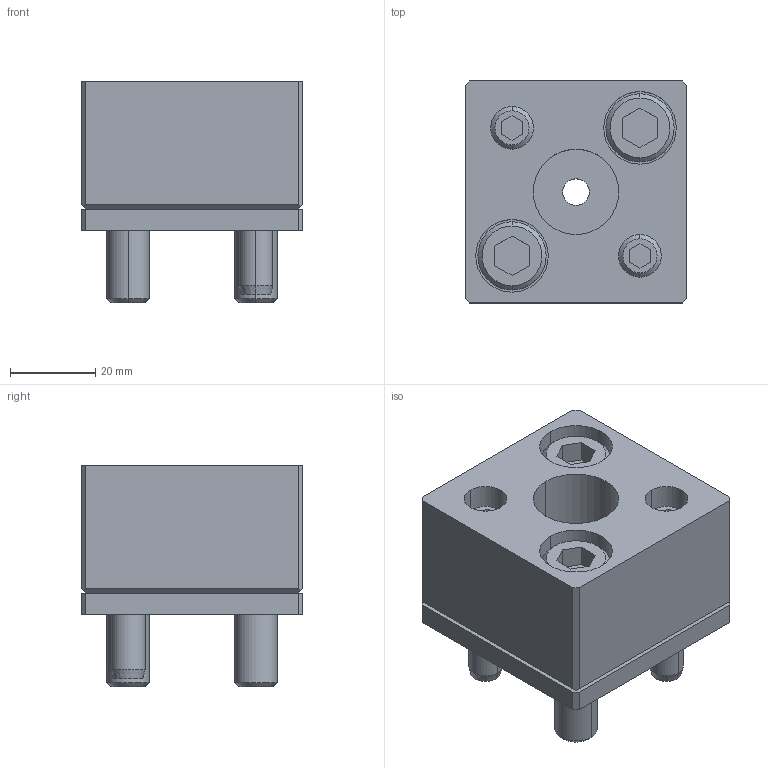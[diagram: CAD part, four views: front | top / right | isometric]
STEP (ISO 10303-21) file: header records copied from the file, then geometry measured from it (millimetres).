
FILE_DESCRIPTION(/* description */ (''),/* implementation_level */ '2;1');
FILE_NAME(/* name */ '3d_sa-ap20_02901_r00.stp',/* time_stamp */ '2011-01-10T14:11:29+09:00',/* author */ ('MISUMI'),/* organization */ (''),/* preprocessor_version */ 'ST-DEVELOPER v11',/* originating_system */ 'UGS - NX 5.0',/* authorisation */ '');
FILE_SCHEMA (('CONFIG_CONTROL_DESIGN'));
Length unit declared in the file: millimetre
Products named in the file (1): 3d_sa-ap20_02901_r00
Bounding box: 52 x 52 x 52 mm (x, y, z)
Volume: 82183.9 mm3; surface area: 30369 mm2
Topology: 8 solids, 8 shells, 159 faces, 358 edges, 230 vertices
Faces by surface type: plane 77, cylinder 56, cone 26
Entity records: 4588 total; most frequent: DIRECTION 812, CARTESIAN_POINT 790, ORIENTED_EDGE 716, EDGE_CURVE 358, AXIS2_PLACEMENT_3D 298, VERTEX_POINT 230, LINE 216, VECTOR 216
